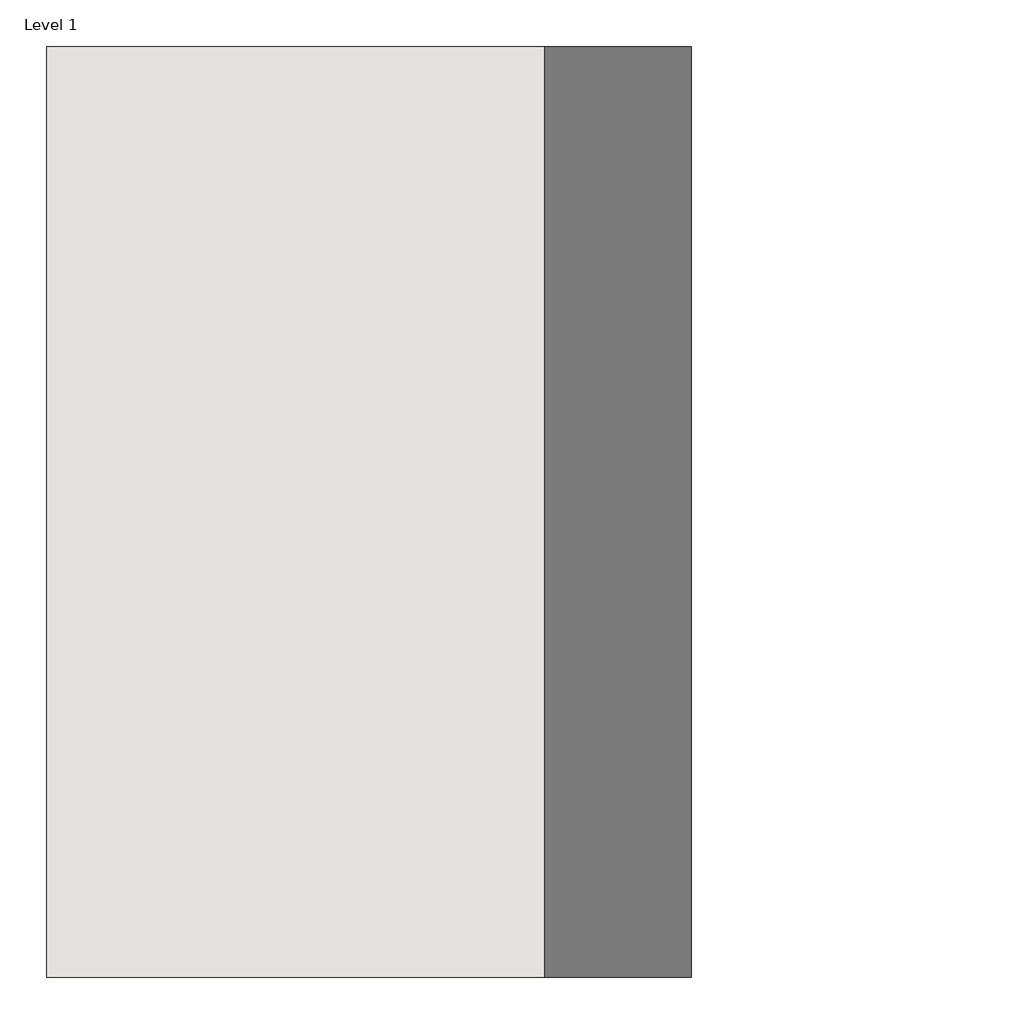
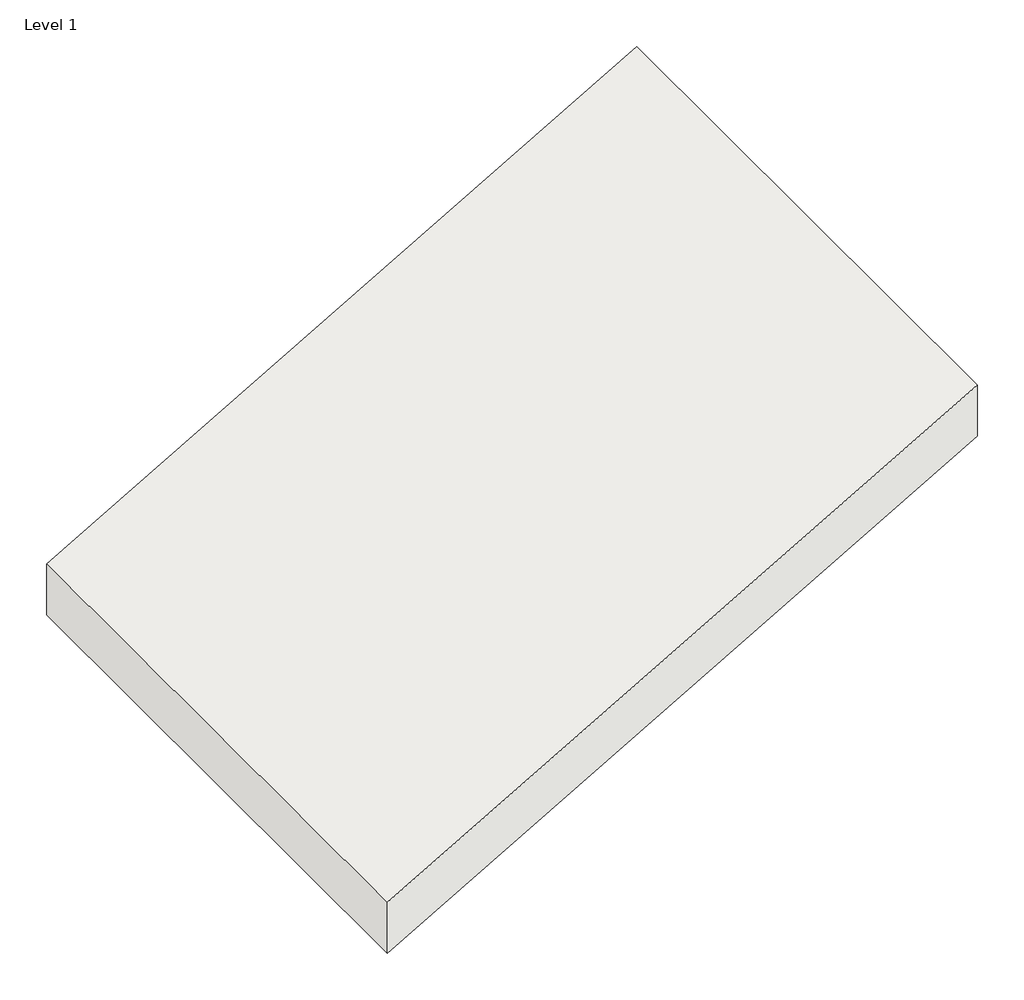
# One storey: 1 roof.
"""IFC4 building model written with IfcOpenShell, lengths in millimetres."""

import ifcopenshell
import ifcopenshell.guid

model = None  # the IFC model being written
_history = None  # IfcOwnerHistory: only IFC2X3 demands one
_inside = {}  # id of a spatial element -> (the spatial element, [elements in it])
_under = {}  # id of a project, library or spatial element -> (it, [spatial elements below it])
_declared = {}  # id of a project -> (the project, [libraries it declares])
_typed = {}  # id of a type object -> (the type object, [elements of that type])
_made_of = {}  # id of a material, layer set ... -> (it, [elements and type objects made of it])


def new_model(schema):
    """Start an empty IFC model of exactly this schema.

    Asked for "IFC4X3", IfcOpenShell would pick the latest addendum, in which some entities
    have other attributes; the version numbers below select the first issue.
    IFC2X3 requires an IfcOwnerHistory on every rooted entity: one is made here for all.
    """
    global model, _history
    if schema == "IFC4X3":
        model = ifcopenshell.file(schema_version=(4, 3, 0, 0))
    else:
        model = ifcopenshell.file(schema=schema)
    _inside.clear()
    _under.clear()
    _declared.clear()
    _typed.clear()
    _made_of.clear()
    _history = None
    if model.schema == "IFC2X3":
        org = make("IfcOrganization", Name="unknown")
        user = make(
            "IfcPersonAndOrganization",
            ThePerson=make("IfcPerson", FamilyName="unknown"),
            TheOrganization=org,
        )
        app = make(
            "IfcApplication",
            ApplicationDeveloper=org,
            Version="unknown",
            ApplicationFullName="unknown",
            ApplicationIdentifier="unknown",
        )
        _history = make(
            "IfcOwnerHistory",
            OwningUser=user,
            OwningApplication=app,
            ChangeAction="ADDED",
            CreationDate=0,
        )
    return model


def make(cls, **values):
    """One entity of the class cls with the attributes given. An attribute that is None is left unset."""
    return model.create_entity(
        cls, **{name: value for name, value in values.items() if value is not None}
    )


def rooted(cls, **values):
    """An entity with a GlobalId (a new one), such as an element, a storey or a relation."""
    return make(cls, GlobalId=ifcopenshell.guid.new(), OwnerHistory=_history, **values)


def si_unit(unit_type, name, prefix=None):
    """IfcSIUnit, for example si_unit("LENGTHUNIT", "METRE", prefix="MILLI")."""
    return make("IfcSIUnit", UnitType=unit_type, Prefix=prefix, Name=name)


def assignment(units):
    """IfcUnitAssignment: the units of a project."""
    return None if units is None else make("IfcUnitAssignment", Units=units)


def point(xyz):
    """IfcCartesianPoint."""
    return None if xyz is None else make("IfcCartesianPoint", Coordinates=xyz)


def direction(xyz):
    """IfcDirection."""
    return None if xyz is None else make("IfcDirection", DirectionRatios=xyz)


def frame(location, z_axis=None, x_axis=None):
    """IfcAxis2Placement3D, a coordinate frame: its origin and axes. An axis left out is left unset."""
    return make(
        "IfcAxis2Placement3D",
        Location=point(location),
        Axis=direction(z_axis),
        RefDirection=direction(x_axis),
    )


def origin():
    """The frame at (0, 0, 0) with its axes left unset."""
    return frame((0.0, 0.0, 0.0))


def place(relative_to, where):
    """IfcLocalPlacement: puts the frame where relative to a parent placement (None: the world)."""
    return make(
        "IfcLocalPlacement", PlacementRelTo=relative_to, RelativePlacement=where
    )


def context(
    kind, dimensions, precision=None, world=None, true_north=None, identifier=None
):
    """IfcGeometricRepresentationContext, for example the 3D "Model" context."""
    return make(
        "IfcGeometricRepresentationContext",
        ContextIdentifier=identifier,
        ContextType=kind,
        CoordinateSpaceDimension=dimensions,
        Precision=precision,
        WorldCoordinateSystem=world,
        TrueNorth=true_north,
    )


def project(units=None, contexts=None):
    """IfcProject with its units and contexts."""
    return rooted(
        "IfcProject",
        Name="project",
        RepresentationContexts=contexts,
        UnitsInContext=assignment(units),
    )


def spatial(cls, under=None, at=None, **own):
    """A site, building, storey or space (cls), placed at a placement, below another one or the project."""
    s = rooted(cls, ObjectPlacement=at, **own)
    if under is not None:
        _under.setdefault(under.id(), (under, []))[1].append(s)
    return s


def polyline(points):
    """IfcPolyline through the points."""
    return make("IfcPolyline", Points=[point(p) for p in points])


def outline(outer, holes=None, kind="AREA"):
    """IfcArbitraryClosedProfileDef: a profile drawn as a closed curve; with holes, ...WithVoids."""
    if holes is None:
        return make("IfcArbitraryClosedProfileDef", ProfileType=kind, OuterCurve=outer)
    return make(
        "IfcArbitraryProfileDefWithVoids",
        ProfileType=kind,
        OuterCurve=outer,
        InnerCurves=holes,
    )


def extrude(swept, where, along, depth):
    """IfcExtrudedAreaSolid: the profile swept, set in the frame where, extruded along a direction by depth."""
    return make(
        "IfcExtrudedAreaSolid",
        SweptArea=swept,
        Position=where,
        ExtrudedDirection=direction(along),
        Depth=depth,
    )


def shape(context_of_items, identifier, shape_type, items):
    """IfcShapeRepresentation: the items that make up one representation, for example the "Body"."""
    return make(
        "IfcShapeRepresentation",
        ContextOfItems=context_of_items,
        RepresentationIdentifier=identifier,
        RepresentationType=shape_type,
        Items=items,
    )


def made_of(thing, what):
    """Note that an element or type object is made of a material, layer set ...; save() writes the relation."""
    if what is not None:
        _made_of.setdefault(what.id(), (what, []))[1].append(thing)
    return thing


def element(
    cls,
    number,
    at=None,
    inside=None,
    cuts=None,
    type_object=None,
    material=None,
    context=None,
    identifier="Body",
    shape_type=None,
    held_by="IfcProductDefinitionShape",
    body=None,
    shapes=None,
    **own,
):
    """One element of the class cls, such as IfcWall. Its Tag is "e" and its number.

    at: its placement. inside: the storey or other place that contains it. cuts: it is an
    opening in that element (IfcRelVoidsElement). A single representation is given by context,
    identifier, shape_type and body (its items); several are given by shapes. held_by: the class
    of the entity that holds the representations. save() writes the other relations.
    """
    e = rooted(cls, Tag="e%d" % number, ObjectPlacement=at, **own)
    if body is not None:
        shapes = [shape(context, identifier, shape_type, body)]
    if shapes is not None:
        e.Representation = make(held_by, Representations=shapes)
    if inside is not None:
        _inside.setdefault(inside.id(), (inside, []))[1].append(e)
    if cuts is not None:
        rooted(
            "IfcRelVoidsElement", RelatingBuildingElement=cuts, RelatedOpeningElement=e
        )
    if type_object is not None:
        _typed.setdefault(type_object.id(), (type_object, []))[1].append(e)
    return made_of(e, material)


def aggregate(whole, parts):
    """IfcRelAggregates: a whole, such as a stair, and the parts it consists of."""
    return rooted("IfcRelAggregates", RelatingObject=whole, RelatedObjects=parts)


def save(model, path):
    """Write the relations noted so far, then the file.

    IfcRelAggregates (storeys below a building ...), IfcRelContainedInSpatialStructure (elements
    in a storey), IfcRelDefinesByType, IfcRelAssociatesMaterial and IfcRelDeclares: one each for
    every whole, place, type object, material and project.
    """
    for whole, parts in _under.values():
        aggregate(whole, parts)
    for where, things in _inside.values():
        rooted(
            "IfcRelContainedInSpatialStructure",
            RelatedElements=things,
            RelatingStructure=where,
        )
    for kind, things in _typed.values():
        rooted("IfcRelDefinesByType", RelatedObjects=things, RelatingType=kind)
    for what, things in _made_of.values():
        rooted("IfcRelAssociatesMaterial", RelatedObjects=things, RelatingMaterial=what)
    for by, libraries in _declared.values():
        rooted("IfcRelDeclares", RelatingContext=by, RelatedDefinitions=libraries)
    model.write(path)


model = new_model("IFC4")

# Units and contexts
model_context = context("Model", 3, world=origin())
ifc_project = project(units=[si_unit("LENGTHUNIT", "METRE", prefix="MILLI")], contexts=[model_context])

# Site, building, storey
site = spatial("IfcSite", under=ifc_project)
building = spatial("IfcBuilding", under=site)
storey = spatial("IfcBuildingStorey", under=building, Name="Level 1", Elevation=0.0)

# Roof
placement = place(None, origin())
element("IfcRoof", 1, ObjectType="RIGIPS - 4.70.04 - REI 60 (66)", at=placement, inside=storey, context=model_context, shape_type="SweptSolid", body=[
    extrude(outline(polyline([(2006.2921854, 1500.0), (274.2413779, -1500.0), (0.0, -1500.0), (1732.0508076, 1500.0), (2006.2921854, 1500.0)])), frame((0.0, -1500.0, 0.0), z_axis=(0.0, 1.0, 0.0), x_axis=(0.0, 0.0, 1.0)), (0.0, 0.0, 1.0), 3000.0),
])

save(model, "model.ifc")
